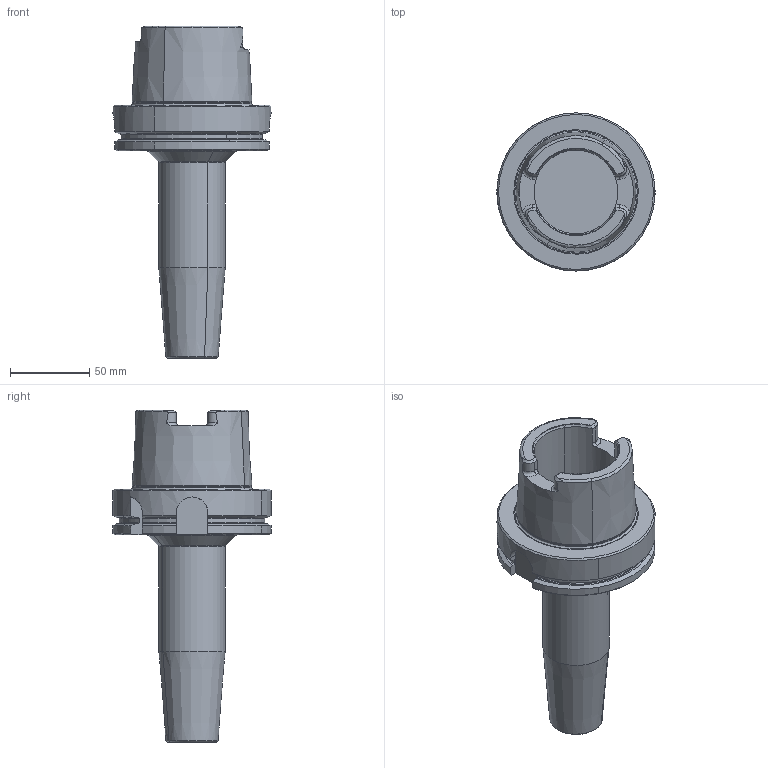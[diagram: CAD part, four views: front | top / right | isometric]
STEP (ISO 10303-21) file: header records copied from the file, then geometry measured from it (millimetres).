
FILE_DESCRIPTION(('CATIA V5 STEP','CAx-IF Rec.Pracs.--- Model Styling and Organization---1.2---2011-12-15'),'2;1');
FILE_NAME('\\nas01\drv1\utils\eitdev\rte\eit\transmagicconvert\db\out\4504222 L.stp','2014-04-06T08:58:05+00:00',('none'),('none'),'CATIA Version 5 Release 21 SP 5 (IN-10)','CATIA V5 STEP AP214','none');
FILE_SCHEMA(('AUTOMOTIVE_DESIGN { 1 0 10303 214 1 1 1 1 }'));
Length unit declared in the file: millimetre
Products named in the file (1): 60966399_0 Holder-Tool HSK A 100 SRKIN 20X160
Bounding box: 99.99 x 100 x 210 mm (x, y, z)
Volume: 453526.9 mm3; surface area: 62303.7 mm2
Topology: 1 solids, 1 shells, 137 faces, 350 edges, 218 vertices
Faces by surface type: plane 37, cone 35, cylinder 33, torus 32
Entity records: 4116 total; most frequent: CARTESIAN_POINT 1175, ORIENTED_EDGE 700, DIRECTION 439, EDGE_CURVE 350, AXIS2_PLACEMENT_3D 241, VERTEX_POINT 218, CIRCLE 159, EDGE_LOOP 140
